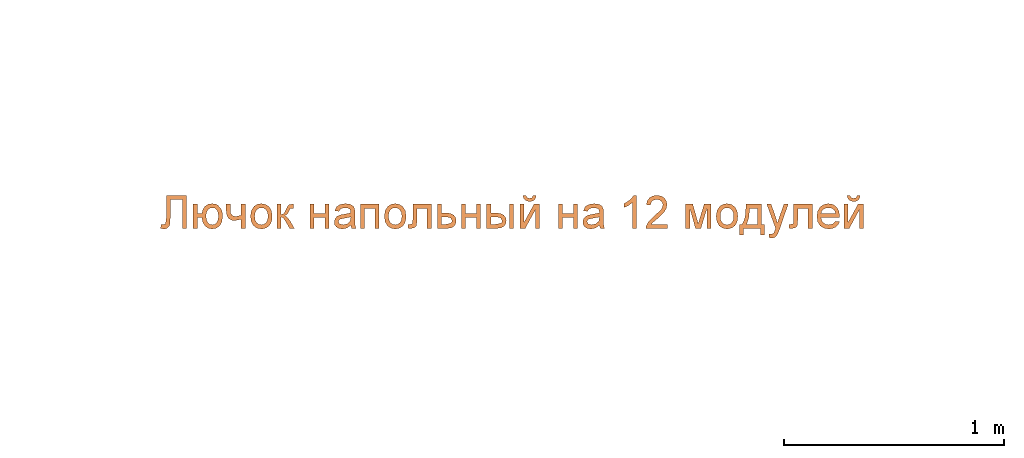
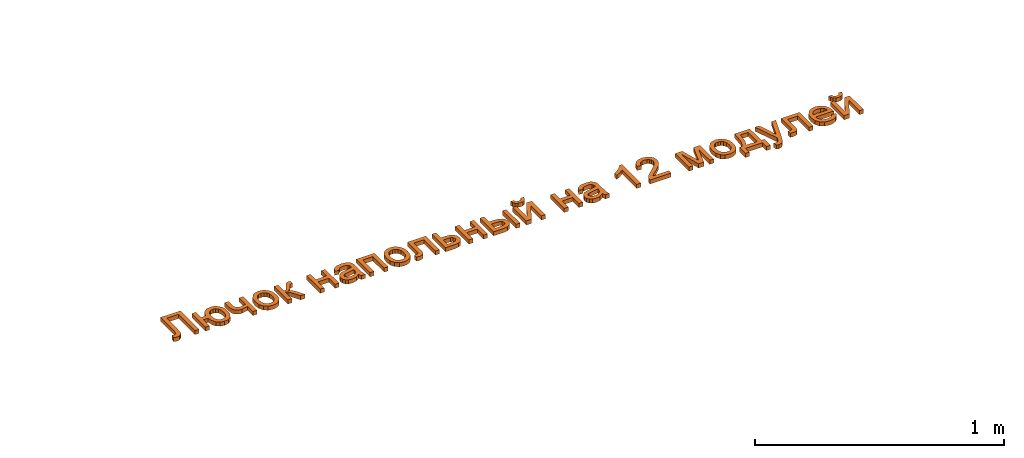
# One storey, part 28 of 87: 1 proxy.
"""IFC2X3 building model written with IfcOpenShell, lengths in millimetres."""

import ifcopenshell
import ifcopenshell.guid

model = None  # the IFC model being written
_history = None  # IfcOwnerHistory: only IFC2X3 demands one
_inside = {}  # id of a spatial element -> (the spatial element, [elements in it])
_under = {}  # id of a project, library or spatial element -> (it, [spatial elements below it])
_declared = {}  # id of a project -> (the project, [libraries it declares])
_typed = {}  # id of a type object -> (the type object, [elements of that type])
_made_of = {}  # id of a material, layer set ... -> (it, [elements and type objects made of it])


def new_model(schema):
    """Start an empty IFC model of exactly this schema.

    Asked for "IFC4X3", IfcOpenShell would pick the latest addendum, in which some entities
    have other attributes; the version numbers below select the first issue.
    IFC2X3 requires an IfcOwnerHistory on every rooted entity: one is made here for all.
    """
    global model, _history
    if schema == "IFC4X3":
        model = ifcopenshell.file(schema_version=(4, 3, 0, 0))
    else:
        model = ifcopenshell.file(schema=schema)
    _inside.clear()
    _under.clear()
    _declared.clear()
    _typed.clear()
    _made_of.clear()
    _history = None
    if model.schema == "IFC2X3":
        org = make("IfcOrganization", Name="unknown")
        user = make(
            "IfcPersonAndOrganization",
            ThePerson=make("IfcPerson", FamilyName="unknown"),
            TheOrganization=org,
        )
        app = make(
            "IfcApplication",
            ApplicationDeveloper=org,
            Version="unknown",
            ApplicationFullName="unknown",
            ApplicationIdentifier="unknown",
        )
        _history = make(
            "IfcOwnerHistory",
            OwningUser=user,
            OwningApplication=app,
            ChangeAction="ADDED",
            CreationDate=0,
        )
    return model


def make(cls, **values):
    """One entity of the class cls with the attributes given. An attribute that is None is left unset."""
    return model.create_entity(
        cls, **{name: value for name, value in values.items() if value is not None}
    )


def entity(cls, *values):
    """Any entity or typed value of the class cls, its attributes in the order of the schema. None: left unset."""
    e = model.create_entity(cls)
    for i, value in enumerate(values):
        if value is not None:
            e[i] = value
    return e


def rooted(cls, **values):
    """An entity with a GlobalId (a new one), such as an element, a storey or a relation."""
    return make(cls, GlobalId=ifcopenshell.guid.new(), OwnerHistory=_history, **values)


def si_unit(unit_type, name, prefix=None):
    """IfcSIUnit, for example si_unit("LENGTHUNIT", "METRE", prefix="MILLI")."""
    return make("IfcSIUnit", UnitType=unit_type, Prefix=prefix, Name=name)


def converted_unit(unit_type, name, factor, base, dimensions=None, offset=None):
    """IfcConversionBasedUnit, such as the inch: factor (a typed value) times the base unit."""
    return make(
        "IfcConversionBasedUnit"
        if offset is None
        else "IfcConversionBasedUnitWithOffset",
        ConversionOffset=offset,
        Dimensions=None
        if dimensions is None
        else entity("IfcDimensionalExponents", *dimensions),
        UnitType=unit_type,
        Name=name,
        ConversionFactor=make(
            "IfcMeasureWithUnit", ValueComponent=factor, UnitComponent=base
        ),
    )


def derived_unit(unit_type, elements):
    """IfcDerivedUnit: a product of units, each with its exponent."""
    return make(
        "IfcDerivedUnit",
        Elements=[
            make("IfcDerivedUnitElement", Unit=unit, Exponent=power)
            for unit, power in elements
        ],
        UnitType=unit_type,
    )


def assignment(units):
    """IfcUnitAssignment: the units of a project."""
    return None if units is None else make("IfcUnitAssignment", Units=units)


def point(xyz):
    """IfcCartesianPoint."""
    return None if xyz is None else make("IfcCartesianPoint", Coordinates=xyz)


def direction(xyz):
    """IfcDirection."""
    return None if xyz is None else make("IfcDirection", DirectionRatios=xyz)


def frame(location, z_axis=None, x_axis=None):
    """IfcAxis2Placement3D, a coordinate frame: its origin and axes. An axis left out is left unset."""
    return make(
        "IfcAxis2Placement3D",
        Location=point(location),
        Axis=direction(z_axis),
        RefDirection=direction(x_axis),
    )


def frame_2d(location, x_axis=None):
    """IfcAxis2Placement2D, a coordinate frame in the plane: its origin and x axis."""
    return make(
        "IfcAxis2Placement2D", Location=point(location), RefDirection=direction(x_axis)
    )


def origin():
    """The frame at (0, 0, 0) with its axes left unset."""
    return frame((0.0, 0.0, 0.0))


def place(relative_to, where):
    """IfcLocalPlacement: puts the frame where relative to a parent placement (None: the world)."""
    return make(
        "IfcLocalPlacement", PlacementRelTo=relative_to, RelativePlacement=where
    )


def context(
    kind, dimensions, precision=None, world=None, true_north=None, identifier=None
):
    """IfcGeometricRepresentationContext, for example the 3D "Model" context."""
    return make(
        "IfcGeometricRepresentationContext",
        ContextIdentifier=identifier,
        ContextType=kind,
        CoordinateSpaceDimension=dimensions,
        Precision=precision,
        WorldCoordinateSystem=world,
        TrueNorth=true_north,
    )


def subcontext(parent, identifier, kind, view, scale=None):
    """IfcGeometricRepresentationSubContext, for example "Body" below "Model"."""
    return make(
        "IfcGeometricRepresentationSubContext",
        ContextIdentifier=identifier,
        ContextType=kind,
        ParentContext=parent,
        TargetScale=scale,
        TargetView=view,
    )


def project(units=None, contexts=None):
    """IfcProject with its units and contexts."""
    return rooted(
        "IfcProject",
        Name="project",
        RepresentationContexts=contexts,
        UnitsInContext=assignment(units),
    )


def spatial(cls, under=None, at=None, **own):
    """A site, building, storey or space (cls), placed at a placement, below another one or the project."""
    s = rooted(cls, ObjectPlacement=at, **own)
    if under is not None:
        _under.setdefault(under.id(), (under, []))[1].append(s)
    return s


def polyline(points):
    """IfcPolyline through the points."""
    return make("IfcPolyline", Points=[point(p) for p in points])


def profile(cls, at=None, kind="AREA", **sizes):
    """A parametric profile (cls). Its sizes go by their IFC names, for example OverallWidth=200.0."""
    return make(cls, ProfileType=kind, Position=at, **sizes)


def rectangle(**sizes):
    """IfcRectangleProfileDef."""
    return profile("IfcRectangleProfileDef", **sizes)


def outline(outer, holes=None, kind="AREA"):
    """IfcArbitraryClosedProfileDef: a profile drawn as a closed curve; with holes, ...WithVoids."""
    if holes is None:
        return make("IfcArbitraryClosedProfileDef", ProfileType=kind, OuterCurve=outer)
    return make(
        "IfcArbitraryProfileDefWithVoids",
        ProfileType=kind,
        OuterCurve=outer,
        InnerCurves=holes,
    )


def extrude(swept, where, along, depth):
    """IfcExtrudedAreaSolid: the profile swept, set in the frame where, extruded along a direction by depth."""
    return make(
        "IfcExtrudedAreaSolid",
        SweptArea=swept,
        Position=where,
        ExtrudedDirection=direction(along),
        Depth=depth,
    )


def shape(context_of_items, identifier, shape_type, items):
    """IfcShapeRepresentation: the items that make up one representation, for example the "Body"."""
    return make(
        "IfcShapeRepresentation",
        ContextOfItems=context_of_items,
        RepresentationIdentifier=identifier,
        RepresentationType=shape_type,
        Items=items,
    )


def made_of(thing, what):
    """Note that an element or type object is made of a material, layer set ...; save() writes the relation."""
    if what is not None:
        _made_of.setdefault(what.id(), (what, []))[1].append(thing)
    return thing


def element(
    cls,
    number,
    at=None,
    inside=None,
    cuts=None,
    type_object=None,
    material=None,
    context=None,
    identifier="Body",
    shape_type=None,
    held_by="IfcProductDefinitionShape",
    body=None,
    shapes=None,
    **own,
):
    """One element of the class cls, such as IfcWall. Its Tag is "e" and its number.

    at: its placement. inside: the storey or other place that contains it. cuts: it is an
    opening in that element (IfcRelVoidsElement). A single representation is given by context,
    identifier, shape_type and body (its items); several are given by shapes. held_by: the class
    of the entity that holds the representations. save() writes the other relations.
    """
    e = rooted(cls, Tag="e%d" % number, ObjectPlacement=at, **own)
    if body is not None:
        shapes = [shape(context, identifier, shape_type, body)]
    if shapes is not None:
        e.Representation = make(held_by, Representations=shapes)
    if inside is not None:
        _inside.setdefault(inside.id(), (inside, []))[1].append(e)
    if cuts is not None:
        rooted(
            "IfcRelVoidsElement", RelatingBuildingElement=cuts, RelatedOpeningElement=e
        )
    if type_object is not None:
        _typed.setdefault(type_object.id(), (type_object, []))[1].append(e)
    return made_of(e, material)


def aggregate(whole, parts):
    """IfcRelAggregates: a whole, such as a stair, and the parts it consists of."""
    return rooted("IfcRelAggregates", RelatingObject=whole, RelatedObjects=parts)


def save(model, path):
    """Write the relations noted so far, then the file.

    IfcRelAggregates (storeys below a building ...), IfcRelContainedInSpatialStructure (elements
    in a storey), IfcRelDefinesByType, IfcRelAssociatesMaterial and IfcRelDeclares: one each for
    every whole, place, type object, material and project.
    """
    for whole, parts in _under.values():
        aggregate(whole, parts)
    for where, things in _inside.values():
        rooted(
            "IfcRelContainedInSpatialStructure",
            RelatedElements=things,
            RelatingStructure=where,
        )
    for kind, things in _typed.values():
        rooted("IfcRelDefinesByType", RelatedObjects=things, RelatingType=kind)
    for what, things in _made_of.values():
        rooted("IfcRelAssociatesMaterial", RelatedObjects=things, RelatingMaterial=what)
    for by, libraries in _declared.values():
        rooted("IfcRelDeclares", RelatingContext=by, RelatedDefinitions=libraries)
    model.write(path)


model = new_model("IFC2X3")

# Units and contexts
model_context = context("Model", 3, precision=0.01, world=origin(), true_north=direction((6.12303176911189e-17, 1.0)))
body_context = subcontext(model_context, "Body", "Model", "MODEL_VIEW")
ifc_project = project(units=[si_unit("LENGTHUNIT", "METRE", prefix="MILLI"), si_unit("AREAUNIT", "SQUARE_METRE"), si_unit("VOLUMEUNIT", "CUBIC_METRE"), converted_unit("PLANEANGLEUNIT", "DEGREE", entity("IfcRatioMeasure", 0.0174532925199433), si_unit("PLANEANGLEUNIT", "RADIAN"), dimensions=[0, 0, 0, 0, 0, 0, 0]), si_unit("MASSUNIT", "GRAM", prefix="KILO"), derived_unit("MASSDENSITYUNIT", [(si_unit("MASSUNIT", "GRAM", prefix="KILO"), 1), (si_unit("LENGTHUNIT", "METRE"), -3)]), si_unit("TIMEUNIT", "SECOND"), si_unit("FREQUENCYUNIT", "HERTZ"), si_unit("THERMODYNAMICTEMPERATUREUNIT", "DEGREE_CELSIUS"), derived_unit("THERMALTRANSMITTANCEUNIT", [(si_unit("MASSUNIT", "GRAM", prefix="KILO"), 1), (si_unit("THERMODYNAMICTEMPERATUREUNIT", "KELVIN"), -1), (si_unit("TIMEUNIT", "SECOND"), -3)]), derived_unit("VOLUMETRICFLOWRATEUNIT", [(si_unit("LENGTHUNIT", "METRE"), 3), (si_unit("TIMEUNIT", "SECOND"), -1)]), si_unit("ELECTRICCURRENTUNIT", "AMPERE"), si_unit("ELECTRICVOLTAGEUNIT", "VOLT"), si_unit("POWERUNIT", "WATT"), si_unit("FORCEUNIT", "NEWTON", prefix="KILO"), si_unit("ILLUMINANCEUNIT", "LUX"), si_unit("LUMINOUSFLUXUNIT", "LUMEN"), si_unit("LUMINOUSINTENSITYUNIT", "CANDELA"), derived_unit("USERDEFINED", [(si_unit("MASSUNIT", "GRAM", prefix="KILO"), -1), (si_unit("LENGTHUNIT", "METRE"), -2), (si_unit("TIMEUNIT", "SECOND"), 3), (si_unit("LUMINOUSFLUXUNIT", "LUMEN"), 1)]), derived_unit("LINEARVELOCITYUNIT", [(si_unit("LENGTHUNIT", "METRE"), 1), (si_unit("TIMEUNIT", "SECOND"), -1)]), si_unit("PRESSUREUNIT", "PASCAL"), derived_unit("USERDEFINED", [(si_unit("LENGTHUNIT", "METRE"), -2), (si_unit("MASSUNIT", "GRAM", prefix="KILO"), 1), (si_unit("TIMEUNIT", "SECOND"), -2)])], contexts=[model_context])

# Site, building, storey
site_placement = place(None, origin())
site = spatial("IfcSite", under=ifc_project, at=site_placement, Name="Default", CompositionType="ELEMENT")
building_placement = place(site_placement, origin())
building = spatial("IfcBuilding", under=site, at=building_placement, Name="Наименование здания", CompositionType="ELEMENT")
storey_placement = place(building_placement, origin())
storey = spatial("IfcBuildingStorey", under=building, at=storey_placement, Name="Этаж 01", CompositionType="ELEMENT", Elevation=0.0)

# Proxy
proxy_placement = place(storey_placement, origin())
element("IfcBuildingElementProxy", 1, at=proxy_placement, inside=storey, Name="Текст модели:150 мм Arial", ObjectType="Текст модели:150 мм Arial", context=body_context, shape_type="SweptSolid", body=[
    extrude(outline(polyline([(-106.310052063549, 19.1966776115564), (-106.310052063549, -72.6266683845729), (44.374413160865, -72.6266683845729), (44.374413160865, -53.7911102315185), (-87.4744939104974, -53.7911102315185), (-87.4744939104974, 0.361119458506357), (-10.5871569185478, 0.361119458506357), (23.7178391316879, 2.55001732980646), (33.4115297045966, 5.9391302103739), (40.6771991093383, 11.7286731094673), (45.2159432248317, 19.6565301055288), (46.7288579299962, 29.4605852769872), (44.374413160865, 45.0955700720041), (25.5388550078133, 42.7411253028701), (27.8932997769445, 33.7280164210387), (22.8349223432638, 22.8203152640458), (-0.985436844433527, 19.1966776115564), (-106.310052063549, 19.1966776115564)])), frame((19996.8628669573, 3911.83815473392, 0.0), z_axis=(0.0, 0.0, -1.0), x_axis=(0.0, -1.0, 0.0)), (0.0, 0.0, -1.0), 20.0),
    extrude(outline(polyline([(-52.9031553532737, -67.8941550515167), (57.7557487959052, -67.8941550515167), (57.7557487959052, -49.0585968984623), (8.31240864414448, -49.0585968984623), (8.31240864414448, -27.8685939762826), (29.8702935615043, -23.6333525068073), (46.2778305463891, -14.0178368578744), (56.652102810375, 0.315765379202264), (60.1101935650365, 18.7052666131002), (56.4221765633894, 38.3823548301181), (45.3581255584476, 53.4885092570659), (27.1479667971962, 63.1040249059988), (2.0216265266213, 66.3091967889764), (-16.0045912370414, 64.759493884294), (-29.9105306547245, 60.110385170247), (-48.506965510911, 44.3650357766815), (-53.5699414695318, 33.075657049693), (-55.2576001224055, 18.3005964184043), (-52.3881205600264, 0.720435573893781), (-43.7796818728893, -13.2452846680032), (-29.7265896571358, -22.9803619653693), (-10.5231495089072, -27.8685939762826), (-10.5231495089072, -49.0585968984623), (-52.9031553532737, -49.0585968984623), (-52.9031553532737, -67.8941550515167)]), holes=[polyline([(-36.4220419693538, 19.5146070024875), (-33.961831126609, 31.7926685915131), (-26.5811985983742, 40.5206689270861), (-14.2801443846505, 45.7353962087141), (2.94133151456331, 47.4736386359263), (20.3559454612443, 45.4640832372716), (32.2063442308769, 39.4354170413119), (39.0075626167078, 30.2613597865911), (41.2746354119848, 18.8156312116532), (38.8236216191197, 7.40209231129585), (31.4705802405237, -1.45466672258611), (18.8660233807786, -7.13844354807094), (0.660463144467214, -9.03303582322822), (-14.9653246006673, -7.15223912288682), (-26.6731690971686, -1.50984902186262), (-33.9848237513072, 7.5078583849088), (-36.4220419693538, 19.5146070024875)])]), frame((20167.9914723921, 3925.21949036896, 0.0), z_axis=(0.0, 0.0, 1.0), x_axis=(0.0, -1.0, 0.0)), (0.0, 0.0, 1.0), 20.0),
    extrude(outline(polyline([(-48.501153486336, -36.9838923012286), (-17.9669478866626, -36.9838923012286), (3.5541488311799, -33.672954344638), (12.5810532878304, -28.8766928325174), (20.0904445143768, -21.1097842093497), (25.1534204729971, -11.1447806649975), (26.8410791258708, 0.24576561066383), (20.3663560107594, 31.2950060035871), (62.1577506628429, 31.2950060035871), (62.1577506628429, 50.1305641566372), (-48.501153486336, 50.1305641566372), (-48.501153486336, 31.2950060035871), (2.30335004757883, 31.2950060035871), (8.00552097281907, 5.28574894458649), (3.40699603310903, -9.28237806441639), (-7.37194642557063, -16.6216238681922), (-27.2743623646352, -18.1483341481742), (-48.501153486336, -18.1483341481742), (-48.501153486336, -36.9838923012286)])), frame((20287.7656748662, 3929.6214922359, 0.0), z_axis=(0.0, 0.0, 1.0), x_axis=(0.0, -1.0, 0.0)), (0.0, 0.0, 1.0), 20.0),
    extrude(outline(polyline([(-11.1946000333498, -52.2426443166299), (13.7256178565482, -52.2426443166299), (33.0962748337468, -44.5759588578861), (46.3022849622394, -30.4665992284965), (52.7285623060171, -11.1385767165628), (52.8795704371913, 2.26160042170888), (49.5396030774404, 15.0586597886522), (42.9102470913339, 26.3612191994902), (33.1930893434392, 35.2778964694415), (19.4724914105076, 41.8007990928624), (0.832814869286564, 45.9220345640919), (-22.8762356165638, 45.7172545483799), (-41.8930612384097, 37.8901775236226), (-55.1425891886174, 23.7682718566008), (-61.5497466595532, 4.67900591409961), (-60.9951142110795, -13.6515433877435), (-53.9645370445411, -29.8701936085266), (-37.0646721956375, -44.5487589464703), (-11.1946000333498, -52.2426443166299)]), holes=[polyline([(-8.64857835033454, -33.5799173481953), (-25.2263685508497, -29.0848574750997), (-36.3325046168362, -20.9461821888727), (-42.1575488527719, -10.2052592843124), (-42.8920635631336, 2.09654344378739), (-38.8516378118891, 13.6120893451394), (-30.3014219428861, 22.3586496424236), (-17.533167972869, 27.2345846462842), (-0.838627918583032, 27.1382546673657), (16.1172354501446, 22.590864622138), (27.4101305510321, 14.4263394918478), (33.3060231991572, 3.69417972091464), (34.0708792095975, -8.55611424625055), (30.0134303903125, -20.1946478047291), (21.4625840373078, -28.9457632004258), (8.53602088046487, -33.7580048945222), (-8.64857835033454, -33.5799173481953)])]), frame((20414.724817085, 3918.86707524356, 0.0), z_axis=(0.0, 0.0, 1.0), x_axis=(0.137105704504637, -0.990556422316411, 0.0)), (0.0, 0.0, 1.0), 20.0),
    extrude(outline(polyline([(-45.4943568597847, -44.3029556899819), (65.1645472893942, -44.3029556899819), (65.1645472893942, -25.4673975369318), (13.3667623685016, -25.4673975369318), (16.8432472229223, -15.3506426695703), (31.2090391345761, -5.41782879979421), (65.1645472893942, 14.3374343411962), (65.1645472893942, 35.7481664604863), (30.4732751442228, 15.5882331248), (15.031428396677, 3.9263738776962), (7.70137964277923, -7.95621456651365), (1.1346860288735, 2.69396919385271), (-12.2746126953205, 10.2907323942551), (-24.6722359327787, 16.7654555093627), (-26.658798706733, 25.9625053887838), (-26.54843410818, 31.0392769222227), (-45.4943568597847, 31.0392769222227), (-45.4943568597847, 27.4340333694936), (-44.0596170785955, 13.6568526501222), (-38.5229930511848, 6.07848354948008), (-21.5084507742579, -2.51156103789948), (-1.78997583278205, -12.8490451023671), (1.59453852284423, -25.4673975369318), (-45.4943568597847, -25.4673975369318), (-45.4943568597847, -44.3029556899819)])), frame((20525.8203256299, 3932.62828886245, 0.0), z_axis=(0.0, 0.0, 1.0), x_axis=(0.0, -1.0, 0.0)), (0.0, 0.0, 1.0), 20.0),
    extrude(outline(polyline([(-54.1522296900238, -43.5572282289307), (56.5066744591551, -43.5572282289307), (56.5066744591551, -24.7216700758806), (7.06333430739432, -24.7216700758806), (7.06333430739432, 24.7216700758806), (56.5066744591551, 24.7216700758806), (56.5066744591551, 43.5572282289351), (-54.1522296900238, 43.5572282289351), (-54.1522296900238, 24.7216700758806), (-11.7722238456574, 24.7216700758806), (-11.7722238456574, -24.7216700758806), (-54.1522296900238, -24.7216700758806), (-54.1522296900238, -43.5572282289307)])), frame((20675.7590633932, 3923.97041603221, 0.0), z_axis=(0.0, 0.0, 1.0), x_axis=(0.0, -1.0, 0.0)), (0.0, 0.0, 1.0), 20.0),
    extrude(outline(polyline([(49.6524096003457, 10.0181831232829), (64.5432257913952, 10.0181831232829), (70.4995522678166, 27.8871625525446), (54.2883394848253, 29.3355270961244), (22.9420080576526, 38.7760718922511), (0.710484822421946, 46.1865796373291), (-15.2157084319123, 50.5258565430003), (-29.1700318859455, 49.0891254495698), (-41.2222862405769, 39.5147959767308), (-51.6167739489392, 18.917772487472), (-55.8804334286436, -5.85565960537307), (-50.8431495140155, -24.829816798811), (-35.969783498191, -38.3769694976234), (-27.7798345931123, -21.2525308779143), (-37.1040448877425, -8.56625349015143), (-34.5156022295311, 10.6580228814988), (-29.3910674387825, 21.7272506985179), (-22.7658175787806, 28.6898706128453), (-16.3179778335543, 30.6413818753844), (-7.93316863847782, 29.2133758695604), (-3.98942903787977, 27.7824615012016), (-8.17747109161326, -5.25653692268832), (-10.6437625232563, -21.6131678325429), (-8.95109552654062, -36.0793630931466), (-1.68600590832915, -48.4864376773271), (11.308557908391, -56.6182193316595), (24.0777236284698, -58.3588743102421), (36.0005558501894, -54.7859509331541), (46.0329524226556, -45.8907241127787), (53.1308111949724, -31.6644687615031), (55.9868232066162, -11.3466480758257), (49.6524096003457, 10.0181831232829)]), holes=[polyline([(13.9144507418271, 21.9308360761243), (18.9401012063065, 20.1392847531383), (31.8183305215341, 12.7055101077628), (38.2807120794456, -2.40052491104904), (36.529877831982, -21.9040040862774), (27.4499699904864, -36.2305979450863), (16.0084717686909, -38.3304356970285), (9.94744424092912, -33.5956214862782), (7.55677023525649, -25.0624858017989), (9.78457593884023, -8.72330506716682), (13.9144507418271, 21.9308360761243)])]), frame((20792.9974183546, 3925.52679421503, 0.0), z_axis=(0.0, 0.0, 1.0), x_axis=(0.316227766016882, -0.948683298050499, 0.0)), (0.0, 0.0, 1.0), 20.0),
    extrude(outline(polyline([(-60.0383416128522, -42.3800058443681), (50.6205625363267, -42.3800058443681), (50.6205625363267, -23.5444476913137), (-41.2027834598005, -23.5444476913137), (-41.2027834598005, 23.5444476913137), (50.6205625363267, 23.5444476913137), (50.6205625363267, 42.3800058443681), (-60.0383416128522, 42.3800058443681), (-60.0383416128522, -42.3800058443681)])), frame((20905.3174283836, 3918.08430410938, 0.0), z_axis=(0.0, 0.0, 1.0), x_axis=(0.0, -1.0, 0.0)), (0.0, 0.0, 1.0), 20.0),
    extrude(outline(polyline([(-11.1946000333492, -52.2426443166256), (13.7256178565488, -52.2426443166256), (33.0962748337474, -44.5759588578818), (46.3022849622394, -30.4665992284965), (52.7285623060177, -11.1385767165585), (52.8795704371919, 2.26160042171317), (49.539603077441, 15.0586597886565), (42.9102470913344, 26.3612191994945), (33.1930893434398, 35.2778964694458), (19.4724914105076, 41.8007990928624), (0.832814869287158, 45.9220345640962), (-22.8762356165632, 45.7172545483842), (-41.8930612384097, 37.8901775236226), (-55.1425891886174, 23.7682718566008), (-61.5497466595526, 4.6790059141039), (-60.9951142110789, -13.6515433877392), (-53.9645370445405, -29.8701936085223), (-37.0646721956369, -44.548758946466), (-11.1946000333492, -52.2426443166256)]), holes=[polyline([(-8.64857835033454, -33.5799173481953), (-25.2263685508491, -29.0848574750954), (-36.3325046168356, -20.9461821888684), (-42.1575488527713, -10.2052592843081), (-42.892063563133, 2.09654344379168), (-38.8516378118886, 13.6120893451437), (-30.3014219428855, 22.3586496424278), (-17.5331679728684, 27.2345846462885), (-0.838627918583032, 27.1382546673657), (16.1172354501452, 22.5908646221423), (27.4101305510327, 14.4263394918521), (33.3060231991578, 3.69417972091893), (34.0708792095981, -8.55611424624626), (30.0134303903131, -20.1946478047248), (21.4625840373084, -28.9457632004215), (8.53602088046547, -33.7580048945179), (-8.64857835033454, -33.5799173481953)])]), frame((21024.5260122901, 3918.86707524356, 0.0), z_axis=(0.0, 0.0, 1.0), x_axis=(0.137105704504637, -0.990556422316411, 0.0)), (0.0, 0.0, 1.0), 20.0),
    extrude(outline(polyline([(-74.0534959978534, 18.8171640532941), (-74.0534959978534, -65.9428476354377), (36.4950435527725, -65.9428476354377), (36.4950435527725, -47.1072894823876), (-55.2179378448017, -47.1072894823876), (-55.2179378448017, -0.0183940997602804), (-2.42687153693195, -0.0183940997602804), (21.9269165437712, 1.25079878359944), (32.2092183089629, 8.22216259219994), (36.6054081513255, 24.7032759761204), (35.6489149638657, 40.0071669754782), (17.7698499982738, 40.0071669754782), (17.7698499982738, 31.5826692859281), (16.6110217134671, 23.0662010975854), (12.9322017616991, 19.6632926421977), (-3.49372932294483, 18.8171640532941), (-74.0534959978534, 18.8171640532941)])), frame((21119.5535082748, 3904.06914972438, 0.0), z_axis=(0.0, 0.0, -1.0), x_axis=(0.0, -1.0, 0.0)), (0.0, 0.0, -1.0), 20.0),
    extrude(outline(polyline([(-63.5983073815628, -49.2961873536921), (47.0605967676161, -49.2961873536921), (47.0605967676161, -5.55501812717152), (44.4808242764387, 13.0000300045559), (36.7415068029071, 25.6965573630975), (25.3693546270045, 33.0220075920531), (11.8910780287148, 35.4638243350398), (-2.91157375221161, 32.5943447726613), (-14.1365731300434, 23.9859060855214), (-21.2137030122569, 10.0615725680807), (-23.5727463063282, -8.75559148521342), (-23.5727463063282, -30.460629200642), (-63.5983073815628, -30.460629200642), (-63.5983073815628, -49.2961873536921)]), holes=[polyline([(28.2250386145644, -30.460629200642), (-4.7371881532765, -30.460629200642), (-4.7371881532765, -10.6317896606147), (-3.46799526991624, 3.53626567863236), (0.339583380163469, 11.606676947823), (11.9278662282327, 16.6282661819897), (19.2073312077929, 14.9314104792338), (24.2703071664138, 9.84084337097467), (28.2250386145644, -12.8758698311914), (28.2250386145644, -30.460629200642)])]), frame((21263.0458804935, 3914.52433834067, 0.0), z_axis=(0.0, 0.0, 1.0), x_axis=(0.0, -1.0, 0.0)), (0.0, 0.0, 1.0), 20.0),
    extrude(outline(polyline([(-54.1522296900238, -43.5572282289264), (56.5066744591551, -43.5572282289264), (56.5066744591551, -24.7216700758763), (7.06333430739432, -24.7216700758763), (7.06333430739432, 24.721670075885), (56.5066744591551, 24.721670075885), (56.5066744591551, 43.5572282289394), (-54.1522296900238, 43.5572282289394), (-54.1522296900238, 24.721670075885), (-11.7722238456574, 24.721670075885), (-11.7722238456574, -24.7216700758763), (-54.1522296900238, -24.7216700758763), (-54.1522296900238, -43.5572282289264)])), frame((21365.6113807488, 3923.97041603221, 0.0), z_axis=(0.0, 0.0, 1.0), x_axis=(0.0, -1.0, 0.0)), (0.0, 0.0, 1.0), 20.0),
    extrude(outline(polyline([(-63.5983073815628, -51.7709012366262), (47.0605967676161, -51.7709012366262), (47.0605967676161, -5.60171084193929), (44.4808242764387, 13.9742098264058), (36.7415068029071, 27.3789100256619), (25.3693546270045, 35.1182274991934), (11.8910780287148, 37.6979999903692), (-2.91157375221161, 34.6215868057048), (-14.1365731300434, 25.3923472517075), (-21.2137030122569, 10.4793308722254), (-23.5727463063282, -9.64841278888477), (-23.5727463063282, -32.9353430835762), (-63.5983073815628, -32.9353430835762), (-63.5983073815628, -51.7709012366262)]), holes=[polyline([(28.2250386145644, -32.9353430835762), (-4.7371881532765, -32.9353430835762), (-4.7371881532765, -11.1199407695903), (-3.46799526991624, 4.44606615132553), (0.339583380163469, 13.3258178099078), (11.9278662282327, 18.8624418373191), (19.2073312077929, 16.9954407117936), (24.2703071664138, 11.39443733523), (28.2250386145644, -13.5847501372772), (28.2250386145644, -32.9353430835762)])]), frame((21489.1928474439, 3914.52433834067, 0.0), z_axis=(0.0, 0.0, 1.0), x_axis=(0.0, -1.0, 0.0)), (0.0, 0.0, 1.0), 20.0),
    extrude(outline(polyline([(-18.9086812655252, -8.80638330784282), (-25.1654169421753, -21.4719280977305), (-13.0047964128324, -24.0889504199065), (-2.33253524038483, -22.5548007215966), (6.51477397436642, -17.0109446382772), (13.2005386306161, -7.5988478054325), (17.0548336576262, 4.29420862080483), (16.4301190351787, 15.3019521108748), (11.3772556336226, 25.1120324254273), (1.94710432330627, 33.4120993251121), (-4.30963135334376, 20.7465545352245), (2.8597429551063, 11.2962766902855), (1.28449863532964, 0.17511459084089), (-6.94780563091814, -8.80638330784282), (-18.9086812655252, -8.80638330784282)])), frame((21633.0517372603, 4005.09562222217, 0.0), z_axis=(0.0, 0.0, -1.0), x_axis=(-0.442902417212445, -0.896569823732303, 0.0)), (0.0, 0.0, -1.0), 20.0),
    extrude(outline(polyline([(-55.3809555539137, -44.7638811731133), (55.2779485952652, -44.7638811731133), (55.2779485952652, -20.1157874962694), (-28.5991463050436, 25.8694619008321), (55.2779485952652, 25.8694619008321), (55.2779485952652, 44.7050200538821), (-55.3809555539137, 44.7050200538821), (-55.3809555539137, 20.3512319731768), (29.0111741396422, -25.9283230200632), (-55.3809555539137, -25.9283230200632), (-55.3809555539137, -44.7638811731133)])), frame((21632.8702926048, 3922.74169016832, 0.0), z_axis=(0.0, 0.0, 1.0), x_axis=(0.0, -1.0, 0.0)), (0.0, 0.0, 1.0), 20.0),
    extrude(outline(polyline([(-54.1522296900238, -43.5572282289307), (56.5066744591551, -43.5572282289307), (56.5066744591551, -24.7216700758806), (7.06333430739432, -24.7216700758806), (7.06333430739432, 24.7216700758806), (56.5066744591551, 24.7216700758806), (56.5066744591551, 43.5572282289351), (-54.1522296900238, 43.5572282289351), (-54.1522296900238, 24.7216700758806), (-11.7722238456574, 24.7216700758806), (-11.7722238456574, -24.7216700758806), (-54.1522296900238, -24.7216700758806), (-54.1522296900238, -43.5572282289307)])), frame((21808.2469973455, 3923.97041603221, 0.0), z_axis=(0.0, 0.0, 1.0), x_axis=(0.0, -1.0, 0.0)), (0.0, 0.0, 1.0), 20.0),
    extrude(outline(polyline([(49.652409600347, 10.0181831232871), (64.5432257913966, 10.0181831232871), (70.499552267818, 27.8871625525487), (54.2883394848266, 29.3355270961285), (22.942008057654, 38.7760718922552), (0.710484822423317, 46.1865796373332), (-15.2157084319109, 50.5258565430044), (-29.1700318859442, 49.0891254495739), (-41.2222862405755, 39.514795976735), (-51.6167739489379, 18.9177724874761), (-55.8804334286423, -5.85565960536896), (-50.8431495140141, -24.8298167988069), (-35.9697834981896, -38.3769694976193), (-27.7798345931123, -21.2525308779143), (-37.1040448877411, -8.56625349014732), (-34.5156022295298, 10.6580228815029), (-29.3910674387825, 21.7272506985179), (-22.7658175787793, 28.6898706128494), (-16.317977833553, 30.6413818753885), (-7.93316863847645, 29.2133758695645), (-3.9894290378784, 27.7824615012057), (-8.17747109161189, -5.25653692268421), (-10.6437625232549, -21.6131678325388), (-8.95109552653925, -36.0793630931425), (-1.68600590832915, -48.4864376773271), (11.3085579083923, -56.6182193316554), (24.0777236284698, -58.3588743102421), (36.0005558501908, -54.7859509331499), (46.032952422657, -45.8907241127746), (53.1308111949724, -31.6644687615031), (55.9868232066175, -11.3466480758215), (49.652409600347, 10.0181831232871)]), holes=[polyline([(13.9144507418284, 21.9308360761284), (18.9401012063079, 20.1392847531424), (31.8183305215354, 12.7055101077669), (38.280712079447, -2.40052491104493), (36.5298778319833, -21.9040040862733), (27.4499699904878, -36.2305979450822), (16.0084717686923, -38.3304356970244), (9.94744424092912, -33.5956214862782), (7.55677023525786, -25.0624858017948), (9.7845759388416, -8.72330506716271), (13.9144507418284, 21.9308360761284)])]), frame((21925.4853523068, 3925.52679421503, 0.0), z_axis=(0.0, 0.0, 1.0), x_axis=(0.316227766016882, -0.948683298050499, 0.0)), (0.0, 0.0, 1.0), 20.0),
    extrude(outline(polyline([(-95.8189532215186, -25.3777263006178), (54.8655120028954, -25.3777263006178), (54.8655120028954, -13.2376204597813), (34.8159432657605, 3.51940442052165), (17.1943956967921, 31.1289481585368), (-0.611092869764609, 31.1289481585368), (8.89865670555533, 11.3001086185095), (21.6089796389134, -6.54216814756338), (-95.8189532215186, -6.54216814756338), (-95.8189532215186, -25.3777263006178)])), frame((22094.8332029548, 3963.28269479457, 0.0), z_axis=(0.0, 0.0, 1.0), x_axis=(0.0, 1.0, 0.0)), (0.0, 0.0, 1.0), 20.0),
    extrude(outline(polyline([(-47.8510638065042, -72.8483486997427), (-47.8510638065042, -91.6839068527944), (51.0356164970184, -91.6839068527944), (49.0122655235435, -78.6976724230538), (37.5711354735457, -58.7032859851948), (13.9898995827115, -36.8694895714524), (-18.530868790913, -5.48915538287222), (-24.6285128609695, 5.32657527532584), (-26.6610608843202, 15.8480003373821), (-24.7434759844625, 25.2795749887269), (-18.9907212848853, 33.1200600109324), (-10.1477578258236, 38.4037651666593), (1.040453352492, 40.165000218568), (12.7896845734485, 38.4451518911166), (21.9177565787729, 33.2856069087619), (27.8084670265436, 25.0910354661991), (29.8456135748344, 14.266107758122), (48.6811717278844, 16.6205525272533), (44.1148364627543, 34.8399083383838), (34.2418034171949, 48.1480395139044), (19.5771073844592, 56.2874286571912), (0.635783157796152, 59.0005583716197), (-18.4434968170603, 55.9839260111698), (-33.0806017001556, 46.9340289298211), (-42.3926147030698, 33.4143656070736), (-45.4966190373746, 16.9884345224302), (-42.1488928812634, -0.872236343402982), (-31.0204625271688, -19.3399125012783), (-4.03631818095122, -45.14683446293), (17.6319313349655, -63.265022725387), (26.1300054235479, -72.8483486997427), (-47.8510638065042, -72.8483486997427)])), frame((22213.6265515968, 3959.14764842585, 0.0), z_axis=(0.0, 0.0, -1.0), x_axis=(-1.0, 0.0, 0.0)), (0.0, 0.0, -1.0), 20.0),
    extrude(outline(polyline([(-60.8759806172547, -57.6754072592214), (49.7829235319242, -57.6754072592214), (49.7829235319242, -38.8398491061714), (-43.5855268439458, -38.8398491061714), (49.7829235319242, -12.9409566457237), (49.7829235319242, 11.7807134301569), (-39.3180956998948, 38.8568282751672), (49.7829235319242, 38.8568282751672), (49.7829235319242, 57.6923864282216), (-60.8759806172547, 57.6923864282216), (-60.8759806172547, 26.6431460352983), (27.7100038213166, -0.285816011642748), (-60.8759806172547, -25.2650034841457), (-60.8759806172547, -57.6754072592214)])), frame((22401.5585895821, 3917.24666510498, 0.0), z_axis=(0.0, 0.0, 1.0), x_axis=(0.0, -1.0, 0.0)), (0.0, 0.0, 1.0), 20.0),
    extrude(outline(polyline([(-11.1946000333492, -52.2426443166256), (13.7256178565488, -52.2426443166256), (33.0962748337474, -44.5759588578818), (46.3022849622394, -30.4665992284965), (52.7285623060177, -11.1385767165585), (52.8795704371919, 2.26160042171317), (49.539603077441, 15.0586597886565), (42.9102470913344, 26.3612191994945), (33.1930893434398, 35.2778964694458), (19.4724914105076, 41.8007990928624), (0.832814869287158, 45.9220345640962), (-22.8762356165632, 45.7172545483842), (-41.8930612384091, 37.8901775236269), (-55.1425891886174, 23.7682718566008), (-61.5497466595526, 4.6790059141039), (-60.9951142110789, -13.6515433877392), (-53.9645370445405, -29.8701936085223), (-37.0646721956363, -44.5487589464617), (-11.1946000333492, -52.2426443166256)]), holes=[polyline([(-8.64857835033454, -33.5799173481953), (-25.2263685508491, -29.0848574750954), (-36.3325046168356, -20.9461821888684), (-42.1575488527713, -10.2052592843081), (-42.892063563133, 2.09654344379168), (-38.8516378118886, 13.6120893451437), (-30.3014219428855, 22.3586496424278), (-17.5331679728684, 27.2345846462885), (-0.838627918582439, 27.13825466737), (16.1172354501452, 22.5908646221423), (27.4101305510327, 14.4263394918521), (33.3060231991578, 3.69417972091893), (34.0708792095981, -8.55611424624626), (30.0134303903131, -20.1946478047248), (21.4625840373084, -28.9457632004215), (8.53602088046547, -33.7580048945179), (-8.64857835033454, -33.5799173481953)])]), frame((22536.0795540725, 3918.86707524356, 0.0), z_axis=(0.0, 0.0, 1.0), x_axis=(0.137105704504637, -0.990556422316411, 0.0)), (0.0, 0.0, 1.0), 20.0),
    extrude(outline(polyline([(-89.8120245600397, 30.1307985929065), (-95.2116329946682, -40.2958539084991), (-3.65698474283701, -47.3153448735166), (-4.7369064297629, -61.4006753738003), (44.5617503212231, -65.1804012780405), (46.0016459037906, -46.3999606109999), (15.4834298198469, -44.0601302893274), (21.4229990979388, 33.4091874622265), (51.9412151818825, 31.0693571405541), (53.38111076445, 49.8497978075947), (4.08245401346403, 53.6295237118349), (3.18251927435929, 41.8917482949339), (-12.8912765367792, 34.5411547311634), (-33.7482991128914, 30.1307985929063), (-89.8120245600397, 30.1307985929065)]), holes=[polyline([(-72.2914925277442, 12.2580174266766), (-29.166157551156, 13.3791398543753), (1.56263674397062, 20.7637525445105), (-2.21708916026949, -28.534904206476), (-74.9912967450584, -22.9553088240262), (-72.2914925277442, 12.2580174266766)])]), frame((22642.5301144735, 3886.27006624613, 0.0), z_axis=(0.0, 0.0, -1.0), x_axis=(-0.076445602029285, -0.997073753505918, 0.0)), (0.0, 0.0, -1.0), 20.0),
    extrude(outline(polyline([(-14.0627784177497, -63.6897846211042), (-2.30982667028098, -63.6897846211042), (11.2235996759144, -56.6043892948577), (19.2677475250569, -41.4042581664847), (24.148334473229, -15.3233337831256), (39.1861017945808, 103.403530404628), (19.8673420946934, 99.4533686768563), (11.3764058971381, 32.0809099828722), (8.47999679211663, 9.33454668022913), (-3.68750084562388, 31.9296007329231), (-36.7914083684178, 87.8681928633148), (-56.2543379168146, 83.8885523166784), (5.04686591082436, -16.1124679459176), (4.51901081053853, -20.8765214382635), (2.25144479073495, -35.4962883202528), (-1.95815357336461, -42.2710621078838), (-10.300083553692, -46.0982994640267), (-20.0027604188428, -46.3925118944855), (-14.0627784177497, -63.6897846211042)])), frame((22751.8397895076, 3884.66529053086, 0.0), z_axis=(0.0, 0.0, 1.0), x_axis=(0.979728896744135, -0.200327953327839, 0.0)), (0.0, 0.0, 1.0), 20.0),
    extrude(outline(polyline([(-74.0534959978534, 18.8171640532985), (-74.0534959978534, -65.9428476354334), (36.4950435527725, -65.9428476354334), (36.4950435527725, -47.107289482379), (-55.2179378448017, -47.107289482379), (-55.2179378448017, -0.0183940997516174), (-2.42687153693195, -0.0183940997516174), (21.9269165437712, 1.2507987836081), (32.2092183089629, 8.2221625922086), (36.6054081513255, 24.703275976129), (35.6489149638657, 40.0071669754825), (17.7698499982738, 40.0071669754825), (17.7698499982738, 31.5826692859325), (16.6110217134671, 23.0662010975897), (12.9322017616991, 19.6632926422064), (-3.49372932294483, 18.8171640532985), (-74.0534959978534, 18.8171640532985)])), frame((22854.7793031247, 3904.06914972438, 0.0), z_axis=(0.0, 0.0, -1.0), x_axis=(0.0, -1.0, 0.0)), (0.0, 0.0, -1.0), 20.0),
    extrude(outline(polyline([(-12.151923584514, -30.5627594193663), (-23.3028322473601, -45.4710024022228), (-8.67600558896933, -50.3662606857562), (6.1827763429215, -49.969826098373), (20.8164252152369, -44.1721168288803), (34.767852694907, -32.8635510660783), (47.457064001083, -14.3885693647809), (51.2430729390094, 5.61202992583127), (45.9060763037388, 25.8663302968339), (31.2262708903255, 45.1024152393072), (10.9154740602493, 59.6770093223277), (-9.99269287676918, 64.6676720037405), (-29.946389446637, 60.6331852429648), (-47.3937751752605, 48.1323309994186), (-58.8653278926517, 30.7635073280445), (-61.9660241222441, 11.014796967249), (-56.1560561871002, -9.52443743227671), (-40.8956164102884, -29.2648332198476), (-37.1706876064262, -32.7160206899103), (21.6964908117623, 28.1133970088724), (29.5607979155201, 15.9656989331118), (31.7422008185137, 3.31507577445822), (28.7208128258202, -8.97205129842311), (20.9767472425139, -20.0292611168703), (5.3052690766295, -30.5627594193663), (-12.151923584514, -30.5627594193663)]), holes=[polyline([(8.1612183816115, 41.2120477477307), (-37.6840592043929, -6.16140575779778), (-43.0633748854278, 2.58957596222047), (-44.7058228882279, 11.1286426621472), (-41.8277013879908, 23.6248066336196), (-33.807336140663, 35.0865524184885), (-23.7122716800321, 42.9855035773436), (-12.6145549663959, 46.8552978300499), (-1.62109020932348, 46.3720932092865), (8.1612183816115, 41.2120477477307)])]), frame((22996.0382637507, 3912.94756781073, 0.0), z_axis=(0.0, 0.0, -1.0), x_axis=(-0.695421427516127, -0.718602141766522, 0.0)), (0.0, 0.0, -1.0), 20.0),
    extrude(outline(polyline([(-18.9086812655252, -8.80638330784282), (-25.1654169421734, -21.4719280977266), (-13.0047964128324, -24.0889504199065), (-2.33253524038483, -22.5548007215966), (6.51477397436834, -17.0109446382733), (13.200538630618, -7.59884780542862), (17.0548336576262, 4.29420862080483), (16.4301190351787, 15.3019521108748), (11.3772556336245, 25.1120324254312), (1.94710432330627, 33.4120993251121), (-4.30963135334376, 20.7465545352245), (2.8597429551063, 11.2962766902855), (1.28449863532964, 0.17511459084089), (-6.94780563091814, -8.80638330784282), (-18.9086812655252, -8.80638330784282)])), frame((23109.2886075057, 4005.09562222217, 0.0), z_axis=(0.0, 0.0, -1.0), x_axis=(-0.442902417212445, -0.896569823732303, 0.0)), (0.0, 0.0, -1.0), 20.0),
    extrude(outline(polyline([(-55.3809555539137, -44.7638811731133), (55.2779485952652, -44.7638811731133), (55.2779485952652, -20.1157874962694), (-28.5991463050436, 25.8694619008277), (55.2779485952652, 25.8694619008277), (55.2779485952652, 44.7050200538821), (-55.3809555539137, 44.7050200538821), (-55.3809555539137, 20.3512319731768), (29.0111741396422, -25.9283230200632), (-55.3809555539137, -25.9283230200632), (-55.3809555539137, -44.7638811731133)])), frame((23109.1071628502, 3922.74169016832, 0.0), z_axis=(0.0, 0.0, 1.0), x_axis=(0.0, -1.0, 0.0)), (0.0, 0.0, 1.0), 20.0),
    extrude(rectangle(XDim=110.658904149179, YDim=18.8355581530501, at=frame_2d((2.70006239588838e-13, 2.16626716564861e-12), x_axis=(1.0, 0.0))), frame((21550.4352951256, 3922.79319364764, 0.0), z_axis=(0.0, 0.0, 1.0), x_axis=(0.0, -1.0, 0.0)), (0.0, 0.0, 1.0), 20.0),
])

save(model, "model.ifc")
